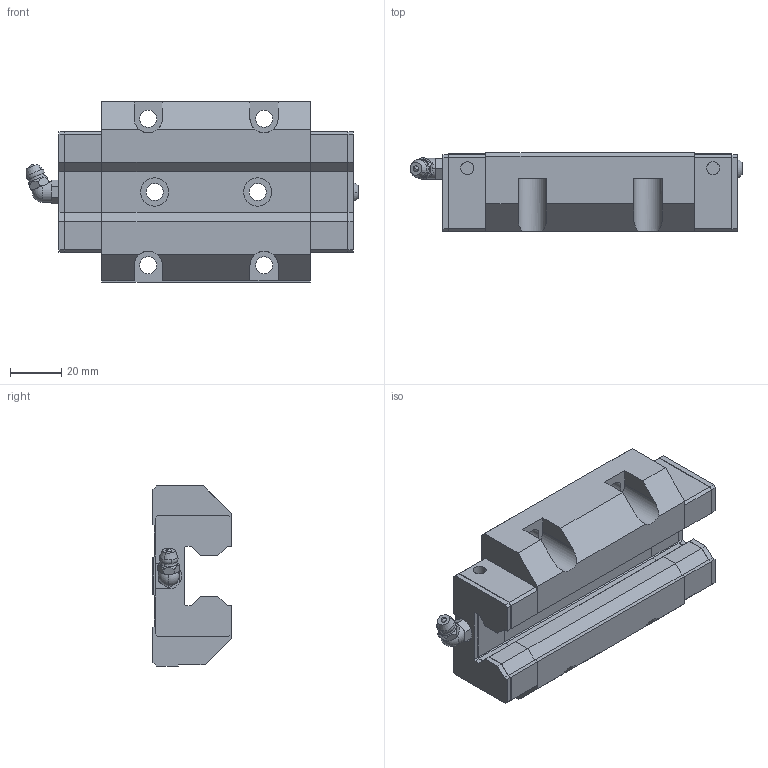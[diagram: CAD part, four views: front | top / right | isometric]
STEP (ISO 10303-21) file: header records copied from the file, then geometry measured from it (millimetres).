
FILE_DESCRIPTION (( 'STEP AP203' ), '1' );
FILE_NAME ('SRW25HC.STEP', '2025-07-11T05:31:48', ( 'Owner' ), ( 'Organization' ), 'SwSTEP 2.0', 'SolidWorks 2020', '' );
FILE_SCHEMA (( 'CONFIG_CONTROL_DESIGN' ));
Length unit declared in the file: millimetre
Products named in the file (1): SRW25HC
Bounding box: 129 x 30.5 x 70 mm (x, y, z)
Volume: 159405.5 mm3; surface area: 41068.5 mm2
Topology: 7 solids, 8 shells, 331 faces, 842 edges, 541 vertices
Faces by surface type: plane 256, cylinder 56, torus 7, sphere 6, cone 4, bspline 2
Entity records: 10331 total; most frequent: CARTESIAN_POINT 2238, ORIENTED_EDGE 1676, DIRECTION 1609, EDGE_CURVE 838, VECTOR 655, LINE 655, VERTEX_POINT 539, AXIS2_PLACEMENT_3D 477
